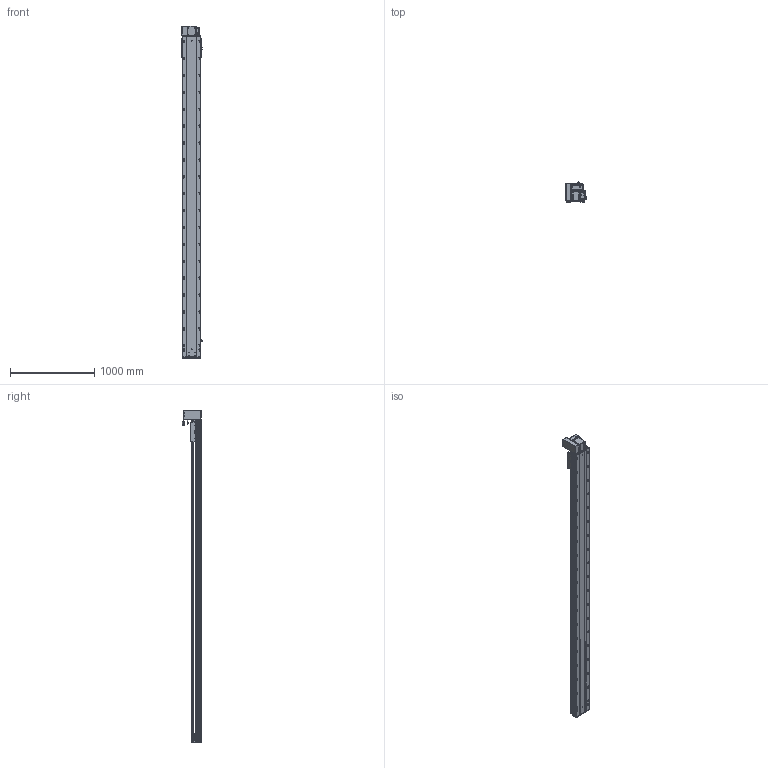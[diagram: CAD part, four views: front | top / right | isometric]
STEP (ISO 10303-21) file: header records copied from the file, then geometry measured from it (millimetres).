
FILE_DESCRIPTION (( 'STEP AP203' ), '1' );
FILE_NAME ('RY220-T-300-UL.SLDASM_3450.step', '2022-07-25T08:37:03', ( '' ), ( '' ), 'SwSTEP 2.0', 'SolidWorks 2016', '' );
FILE_SCHEMA (( 'CONFIG_CONTROL_DESIGN' ));
Length unit declared in the file: millimetre
Products named in the file (14): 怢湛750W_ECMA-CX0807ES; RY220-T-300-UL.SLDASM_3450; RY220翋肮祭謫釱; 覜茼ん672; 110A-T-肮祭謫釱傷裔; RY220圉猾敕々湍臏賑輸; RY220-T-蛌殏萇儂假蚾啣(750W); RY220翋肮祭謫裔啣; RY220-T-湍謫欶(鍼踢); RY220-T菁釱-300_3450; RY220-俋离672覜茼んえ; RY220-同步轮副支撑座6304×2; RY220-T-300-奻裔啣_3450; 滅袉蝶18-15
Assembly tree (18 placements, depth 2):
  RY220-T-300-UL.SLDASM_3450
    RY220-T菁釱-300_3450
    RY220翋肮祭謫釱
    覜茼ん672  x3
    RY220圉猾敕々湍臏賑輸
    RY220-T-300-奻裔啣_3450
    RY220-俋离672覜茼んえ
    滅袉蝶18-15  x3
    RY220翋肮祭謫裔啣  x2
    110A-T-肮祭謫釱傷裔
    怢湛750W_ECMA-CX0807ES
    RY220-T-湍謫欶(鍼踢)
    RY220-T-蛌殏萇儂假蚾啣(750W)
    RY220-同步轮副支撑座6304×2
Bounding box: 239.7 x 231.74 x 3930.5 mm (x, y, z)
Volume: 28111799.6 mm3; surface area: 8749335.8 mm2
Topology: 19 solids, 19 shells, 3134 faces, 8679 edges, 5416 vertices
Faces by surface type: cylinder 1570, plane 1069, cone 413, bspline 56, sphere 16, torus 10
Entity records: 104659 total; most frequent: CARTESIAN_POINT 29445, ORIENTED_EDGE 15514, DIRECTION 15072, EDGE_CURVE 7757, AXIS2_PLACEMENT_3D 5472, VERTEX_POINT 5040, LINE 4128, VECTOR 4128
